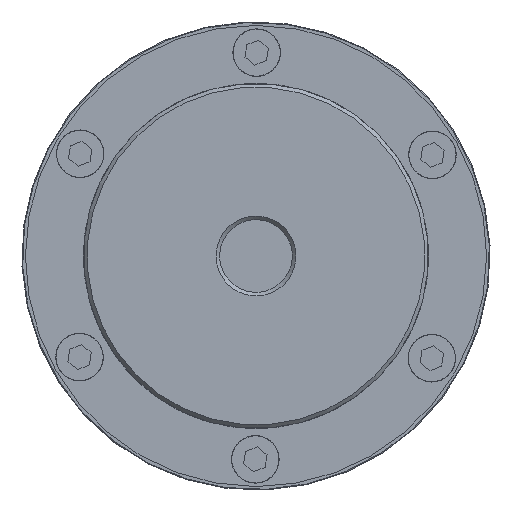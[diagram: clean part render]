
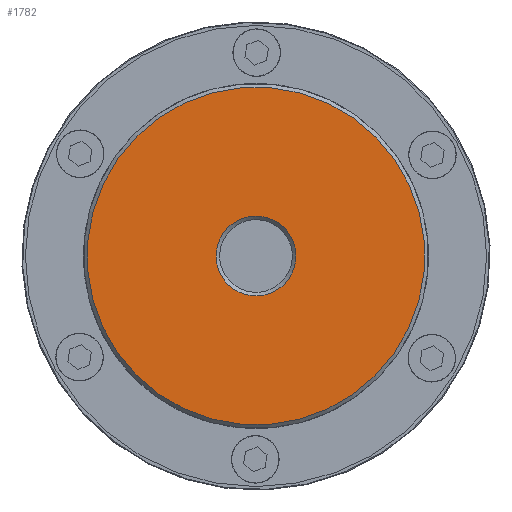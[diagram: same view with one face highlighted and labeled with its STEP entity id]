
A CAD part, left-side view. The second image highlights one B-rep face of the part: STEP entity #1782.
In plain terms, the highlighted planar face has unit normal (-1, 0, 0) as drawn and (0, 0, -1) by its records, which use the part's own axes.
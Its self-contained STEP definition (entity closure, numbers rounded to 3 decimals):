
#1782 = ADVANCED_FACE( '', ( #3513, #3514 ), #3515, .T. );
#3513 = FACE_BOUND( '', #5148, .T. );
#3514 = FACE_OUTER_BOUND( '', #5149, .T. );
#3515 = PLANE( '', #5150 );
#5148 = EDGE_LOOP( '', ( #8096 ) );
#5149 = EDGE_LOOP( '', ( #8097 ) );
#5150 = AXIS2_PLACEMENT_3D( '', #8098, #8099, #8100 );
#8096 = ORIENTED_EDGE( '', *, *, #8567, .T. );
#8097 = ORIENTED_EDGE( '', *, *, #8548, .T. );
#8098 = CARTESIAN_POINT( '', ( 0., 0., 0. ) );
#8099 = DIRECTION( '', ( 0., 0., -1. ) );
#8100 = DIRECTION( '', ( -1., 0., 0. ) );
#8548 = EDGE_CURVE( '', #9829, #9829, #9830, .T. );
#8567 = EDGE_CURVE( '', #9861, #9861, #9862, .F. );
#9829 = VERTEX_POINT( '', #11618 );
#9830 = CIRCLE( '', #11619, 46.5 );
#9861 = VERTEX_POINT( '', #11708 );
#9862 = CIRCLE( '', #11709, 11. );
#11618 = CARTESIAN_POINT( '', ( -46.5, 0., 0. ) );
#11619 = AXIS2_PLACEMENT_3D( '', #14288, #14289, #14290 );
#11708 = CARTESIAN_POINT( '', ( -11., 0., 0. ) );
#11709 = AXIS2_PLACEMENT_3D( '', #14316, #14317, #14318 );
#14288 = CARTESIAN_POINT( '', ( 0., 0., 0. ) );
#14289 = DIRECTION( '', ( 0., 0., -1. ) );
#14290 = DIRECTION( '', ( -1., 0., 0. ) );
#14316 = CARTESIAN_POINT( '', ( 0., 0., 0. ) );
#14317 = DIRECTION( '', ( 0., 0., -1. ) );
#14318 = DIRECTION( '', ( -1., 0., 0. ) );
